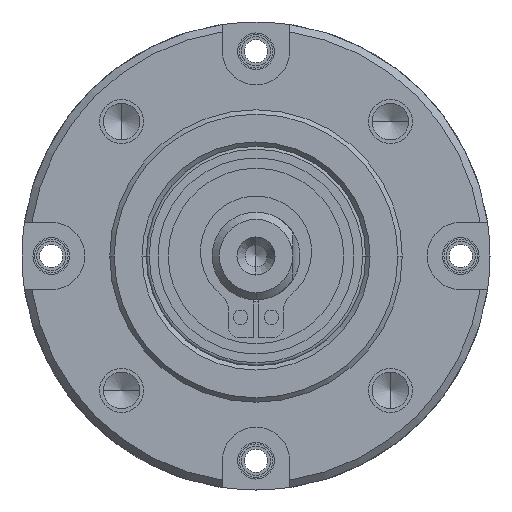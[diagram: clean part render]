
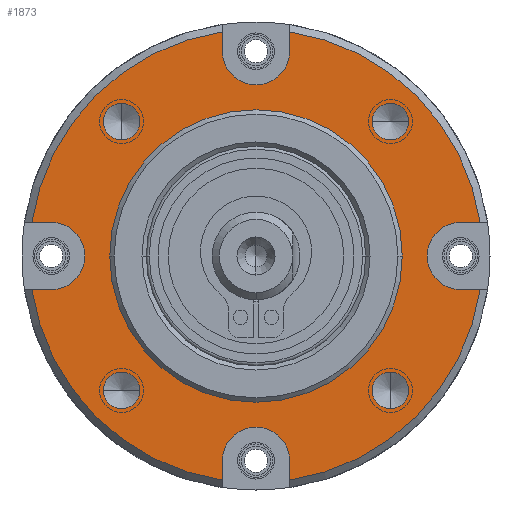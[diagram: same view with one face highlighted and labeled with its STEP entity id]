
A CAD part, left-side view. The second image highlights one B-rep face of the part: STEP entity #1873.
In plain terms, the highlighted planar face has unit normal (-1, 0, 0).
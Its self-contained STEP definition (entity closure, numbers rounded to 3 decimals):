
#400=CARTESIAN_POINT('',(-6.5,9.192,-9.192));
#401=DIRECTION('',(-1.,0.,0.));
#402=DIRECTION('',(0.,1.,0.));
#403=AXIS2_PLACEMENT_3D('',#400,#401,#402);
#408=CARTESIAN_POINT('',(-6.5,9.192,-9.192));
#409=DIRECTION('',(-1.,0.,0.));
#410=DIRECTION('',(0.,-1.,0.));
#411=AXIS2_PLACEMENT_3D('',#408,#409,#410);
#416=CARTESIAN_POINT('',(-6.5,9.192,9.192));
#417=DIRECTION('',(-1.,0.,0.));
#418=DIRECTION('',(0.,0.,1.));
#419=AXIS2_PLACEMENT_3D('',#416,#417,#418);
#424=CARTESIAN_POINT('',(-6.5,9.192,9.192));
#425=DIRECTION('',(-1.,0.,0.));
#426=DIRECTION('',(0.,0.,-1.));
#427=AXIS2_PLACEMENT_3D('',#424,#425,#426);
#432=CARTESIAN_POINT('',(-6.5,-9.192,9.192));
#433=DIRECTION('',(-1.,0.,0.));
#434=DIRECTION('',(0.,-1.,0.));
#435=AXIS2_PLACEMENT_3D('',#432,#433,#434);
#440=CARTESIAN_POINT('',(-6.5,-9.192,9.192));
#441=DIRECTION('',(-1.,0.,0.));
#442=DIRECTION('',(0.,1.,0.));
#443=AXIS2_PLACEMENT_3D('',#440,#441,#442);
#448=CARTESIAN_POINT('',(-6.5,-9.192,-9.192));
#449=DIRECTION('',(-1.,0.,0.));
#450=DIRECTION('',(0.,0.,-1.));
#451=AXIS2_PLACEMENT_3D('',#448,#449,#450);
#456=CARTESIAN_POINT('',(-6.5,-9.192,-9.192));
#457=DIRECTION('',(-1.,0.,0.));
#458=DIRECTION('',(0.,0.,1.));
#459=AXIS2_PLACEMENT_3D('',#456,#457,#458);
#464=CARTESIAN_POINT('',(-6.5,0.,0.));
#465=DIRECTION('',(-1.,0.,0.));
#466=DIRECTION('',(0.,0.989,-0.148));
#467=AXIS2_PLACEMENT_3D('',#464,#465,#466);
#472=DIRECTION('',(0.,-1.,0.));
#473=VECTOR('',#472,1.328);
#474=CARTESIAN_POINT('',(-6.5,15.328,-2.3));
#475=LINE('',#474,#473);
#479=CARTESIAN_POINT('',(-6.5,14.,0.));
#480=DIRECTION('',(-1.,0.,0.));
#481=DIRECTION('',(0.,0.,-1.));
#482=AXIS2_PLACEMENT_3D('',#479,#480,#481);
#487=DIRECTION('',(0.,-1.,0.));
#488=VECTOR('',#487,1.328);
#489=CARTESIAN_POINT('',(-6.5,15.328,2.3));
#490=LINE('',#489,#488);
#494=CARTESIAN_POINT('',(-6.5,0.,0.));
#495=DIRECTION('',(-1.,0.,0.));
#496=DIRECTION('',(0.,0.148,0.989));
#497=AXIS2_PLACEMENT_3D('',#494,#495,#496);
#502=DIRECTION('',(0.,0.,-1.));
#503=VECTOR('',#502,1.328);
#504=CARTESIAN_POINT('',(-6.5,2.3,15.328));
#505=LINE('',#504,#503);
#509=CARTESIAN_POINT('',(-6.5,0.,14.));
#510=DIRECTION('',(-1.,0.,0.));
#511=DIRECTION('',(0.,1.,0.));
#512=AXIS2_PLACEMENT_3D('',#509,#510,#511);
#517=DIRECTION('',(0.,0.,1.));
#518=VECTOR('',#517,1.328);
#519=CARTESIAN_POINT('',(-6.5,-2.3,14.));
#520=LINE('',#519,#518);
#524=CARTESIAN_POINT('',(-6.5,0.,0.));
#525=DIRECTION('',(-1.,0.,0.));
#526=DIRECTION('',(0.,-0.989,0.148));
#527=AXIS2_PLACEMENT_3D('',#524,#525,#526);
#532=DIRECTION('',(0.,1.,0.));
#533=VECTOR('',#532,1.328);
#534=CARTESIAN_POINT('',(-6.5,-15.328,2.3));
#535=LINE('',#534,#533);
#539=CARTESIAN_POINT('',(-6.5,-14.,0.));
#540=DIRECTION('',(-1.,0.,0.));
#541=DIRECTION('',(0.,0.,1.));
#542=AXIS2_PLACEMENT_3D('',#539,#540,#541);
#547=DIRECTION('',(0.,1.,0.));
#548=VECTOR('',#547,1.328);
#549=CARTESIAN_POINT('',(-6.5,-15.328,
-2.3));
#550=LINE('',#549,#548);
#554=CARTESIAN_POINT('',(-6.5,0.,0.));
#555=DIRECTION('',(-1.,0.,0.));
#556=DIRECTION('',(0.,-0.148,-0.989));
#557=AXIS2_PLACEMENT_3D('',#554,#555,#556);
#562=DIRECTION('',(0.,0.,1.));
#563=VECTOR('',#562,1.328);
#564=CARTESIAN_POINT('',(-6.5,-2.3,
-15.328));
#565=LINE('',#564,#563);
#569=CARTESIAN_POINT('',(-6.5,0.,-14.));
#570=DIRECTION('',(-1.,0.,0.));
#571=DIRECTION('',(0.,-1.,0.));
#572=AXIS2_PLACEMENT_3D('',#569,#570,#571);
#577=DIRECTION('',(0.,0.,-1.));
#578=VECTOR('',#577,1.328);
#579=CARTESIAN_POINT('',(-6.5,2.3,-14.));
#580=LINE('',#579,#578);
#592=CARTESIAN_POINT('',(-6.5,0.,0.));
#593=DIRECTION('',(1.,0.,0.));
#594=DIRECTION('',(0.,1.,0.));
#595=AXIS2_PLACEMENT_3D('',#592,#593,#594);
#661=CARTESIAN_POINT('',(-6.5,0.,0.));
#662=DIRECTION('',(-1.,0.,0.));
#663=DIRECTION('',(0.,1.,0.));
#664=AXIS2_PLACEMENT_3D('',#661,#662,#663);
#1104=CARTESIAN_POINT('',(-6.5,-2.3,
15.328));
#1124=CARTESIAN_POINT('',(-6.5,-15.328,
2.3));
#1151=CARTESIAN_POINT('',(-6.5,-15.328,
-2.3));
#1171=CARTESIAN_POINT('',(-6.5,-2.3,
-15.328));
#1344=CARTESIAN_POINT('',(-6.5,10.,0.));
#1345=CARTESIAN_POINT('',(-6.5,-10.,0.));
#1346=VERTEX_POINT('',#1344);
#1347=VERTEX_POINT('',#1345);
#1370=CARTESIAN_POINT('',(-6.5,10.442,-9.192));
#1371=CARTESIAN_POINT('',(-6.5,7.942,-9.192));
#1372=VERTEX_POINT('',#1370);
#1373=VERTEX_POINT('',#1371);
#1380=CARTESIAN_POINT('',(-6.5,9.192,10.442));
#1381=CARTESIAN_POINT('',(-6.5,9.192,7.942));
#1382=VERTEX_POINT('',#1380);
#1383=VERTEX_POINT('',#1381);
#1390=CARTESIAN_POINT('',(-6.5,-10.442,9.192));
#1391=CARTESIAN_POINT('',(-6.5,-7.942,9.192));
#1392=VERTEX_POINT('',#1390);
#1393=VERTEX_POINT('',#1391);
#1400=CARTESIAN_POINT('',(-6.5,-9.192,-10.442));
#1401=CARTESIAN_POINT('',(-6.5,-9.192,-7.942));
#1402=VERTEX_POINT('',#1400);
#1403=VERTEX_POINT('',#1401);
#1412=CARTESIAN_POINT('',(-6.5,14.,-2.3));
#1413=CARTESIAN_POINT('',(-6.5,14.,2.3));
#1414=VERTEX_POINT('',#1412);
#1415=VERTEX_POINT('',#1413);
#1430=CARTESIAN_POINT('',(-6.5,2.3,14.));
#1431=CARTESIAN_POINT('',(-6.5,-2.3,14.));
#1432=VERTEX_POINT('',#1430);
#1433=VERTEX_POINT('',#1431);
#1446=CARTESIAN_POINT('',(-6.5,-14.,2.3));
#1447=CARTESIAN_POINT('',(-6.5,-14.,-2.3));
#1448=VERTEX_POINT('',#1446);
#1449=VERTEX_POINT('',#1447);
#1460=CARTESIAN_POINT('',(-6.5,-2.3,-14.));
#1461=CARTESIAN_POINT('',(-6.5,2.3,-14.));
#1462=VERTEX_POINT('',#1460);
#1463=VERTEX_POINT('',#1461);
#1472=CARTESIAN_POINT('',(-6.5,15.328,-2.3));
#1473=CARTESIAN_POINT('',(-6.5,2.3,-15.328));
#1474=VERTEX_POINT('',#1472);
#1475=VERTEX_POINT('',#1473);
#1480=CARTESIAN_POINT('',(-6.5,2.3,15.328));
#1481=CARTESIAN_POINT('',(-6.5,15.328,2.3));
#1482=VERTEX_POINT('',#1480);
#1483=VERTEX_POINT('',#1481);
#1532=VERTEX_POINT('',#1104);
#1536=VERTEX_POINT('',#1124);
#1537=VERTEX_POINT('',#1151);
#1541=VERTEX_POINT('',#1171);
#1806=CARTESIAN_POINT('',(-6.5,0.,0.));
#1807=DIRECTION('',(1.,0.,0.));
#1808=DIRECTION('',(0.,-1.,0.));
#1809=AXIS2_PLACEMENT_3D('',#1806,#1807,#1808);
#1810=PLANE('',#1809);
#1811=ORIENTED_EDGE('',*,*,#1797,.F.);
#1812=ORIENTED_EDGE('',*,*,#1787,.T.);
#1814=ORIENTED_EDGE('',*,*,#1813,.T.);
#1816=ORIENTED_EDGE('',*,*,#1815,.F.);
#1818=ORIENTED_EDGE('',*,*,#1817,.F.);
#1820=ORIENTED_EDGE('',*,*,#1819,.T.);
#1822=ORIENTED_EDGE('',*,*,#1821,.T.);
#1824=ORIENTED_EDGE('',*,*,#1823,.T.);
#1826=ORIENTED_EDGE('',*,*,#1825,.F.);
#1828=ORIENTED_EDGE('',*,*,#1827,.T.);
#1830=ORIENTED_EDGE('',*,*,#1829,.T.);
#1832=ORIENTED_EDGE('',*,*,#1831,.F.);
#1834=ORIENTED_EDGE('',*,*,#1833,.F.);
#1836=ORIENTED_EDGE('',*,*,#1835,.T.);
#1838=ORIENTED_EDGE('',*,*,#1837,.T.);
#1840=ORIENTED_EDGE('',*,*,#1839,.T.);
#1841=EDGE_LOOP('',(#1811,#1812,#1814,#1816,#1818,#1820,#1822,#1824,#1826,#1828,
#1830,#1832,#1834,#1836,#1838,#1840));
#1842=FACE_OUTER_BOUND('',#1841,.F.);
#1844=ORIENTED_EDGE('',*,*,#1843,.T.);
#1846=ORIENTED_EDGE('',*,*,#1845,.T.);
#1847=EDGE_LOOP('',(#1844,#1846));
#1848=FACE_BOUND('',#1847,.F.);
#1850=ORIENTED_EDGE('',*,*,#1849,.T.);
#1852=ORIENTED_EDGE('',*,*,#1851,.T.);
#1853=EDGE_LOOP('',(#1850,#1852));
#1854=FACE_BOUND('',#1853,.F.);
#1856=ORIENTED_EDGE('',*,*,#1855,.T.);
#1858=ORIENTED_EDGE('',*,*,#1857,.T.);
#1859=EDGE_LOOP('',(#1856,#1858));
#1860=FACE_BOUND('',#1859,.F.);
#1862=ORIENTED_EDGE('',*,*,#1861,.T.);
#1864=ORIENTED_EDGE('',*,*,#1863,.T.);
#1865=EDGE_LOOP('',(#1862,#1864));
#1866=FACE_BOUND('',#1865,.F.);
#1868=ORIENTED_EDGE('',*,*,#1867,.F.);
#1870=ORIENTED_EDGE('',*,*,#1869,.T.);
#1871=EDGE_LOOP('',(#1868,#1870));
#1872=FACE_BOUND('',#1871,.F.);
#404=CIRCLE('',#403,1.25);
#412=CIRCLE('',#411,1.25);
#420=CIRCLE('',#419,1.25);
#428=CIRCLE('',#427,1.25);
#436=CIRCLE('',#435,1.25);
#444=CIRCLE('',#443,1.25);
#452=CIRCLE('',#451,1.25);
#460=CIRCLE('',#459,1.25);
#468=CIRCLE('',#467,15.5);
#483=CIRCLE('',#482,2.3);
#498=CIRCLE('',#497,15.5);
#513=CIRCLE('',#512,2.3);
#528=CIRCLE('',#527,15.5);
#543=CIRCLE('',#542,2.3);
#558=CIRCLE('',#557,15.5);
#573=CIRCLE('',#572,2.3);
#596=CIRCLE('',#595,10.);
#665=CIRCLE('',#664,10.);
#1787=EDGE_CURVE('',#1474,#1414,#475,.T.);
#1797=EDGE_CURVE('',#1474,#1475,#468,.T.);
#1813=EDGE_CURVE('',#1414,#1415,#483,.T.);
#1815=EDGE_CURVE('',#1483,#1415,#490,.T.);
#1817=EDGE_CURVE('',#1482,#1483,#498,.T.);
#1819=EDGE_CURVE('',#1482,#1432,#505,.T.);
#1821=EDGE_CURVE('',#1432,#1433,#513,.T.);
#1823=EDGE_CURVE('',#1433,#1532,#520,.T.);
#1825=EDGE_CURVE('',#1536,#1532,#528,.T.);
#1827=EDGE_CURVE('',#1536,#1448,#535,.T.);
#1829=EDGE_CURVE('',#1448,#1449,#543,.T.);
#1831=EDGE_CURVE('',#1537,#1449,#550,.T.);
#1833=EDGE_CURVE('',#1541,#1537,#558,.T.);
#1835=EDGE_CURVE('',#1541,#1462,#565,.T.);
#1837=EDGE_CURVE('',#1462,#1463,#573,.T.);
#1839=EDGE_CURVE('',#1463,#1475,#580,.T.);
#1843=EDGE_CURVE('',#1372,#1373,#404,.T.);
#1845=EDGE_CURVE('',#1373,#1372,#412,.T.);
#1849=EDGE_CURVE('',#1382,#1383,#420,.T.);
#1851=EDGE_CURVE('',#1383,#1382,#428,.T.);
#1855=EDGE_CURVE('',#1392,#1393,#436,.T.);
#1857=EDGE_CURVE('',#1393,#1392,#444,.T.);
#1861=EDGE_CURVE('',#1402,#1403,#452,.T.);
#1863=EDGE_CURVE('',#1403,#1402,#460,.T.);
#1867=EDGE_CURVE('',#1346,#1347,#596,.T.);
#1869=EDGE_CURVE('',#1346,#1347,#665,.T.);
#1873=ADVANCED_FACE('',(#1842,#1848,#1854,#1860,#1866,#1872),#1810,.F.);
